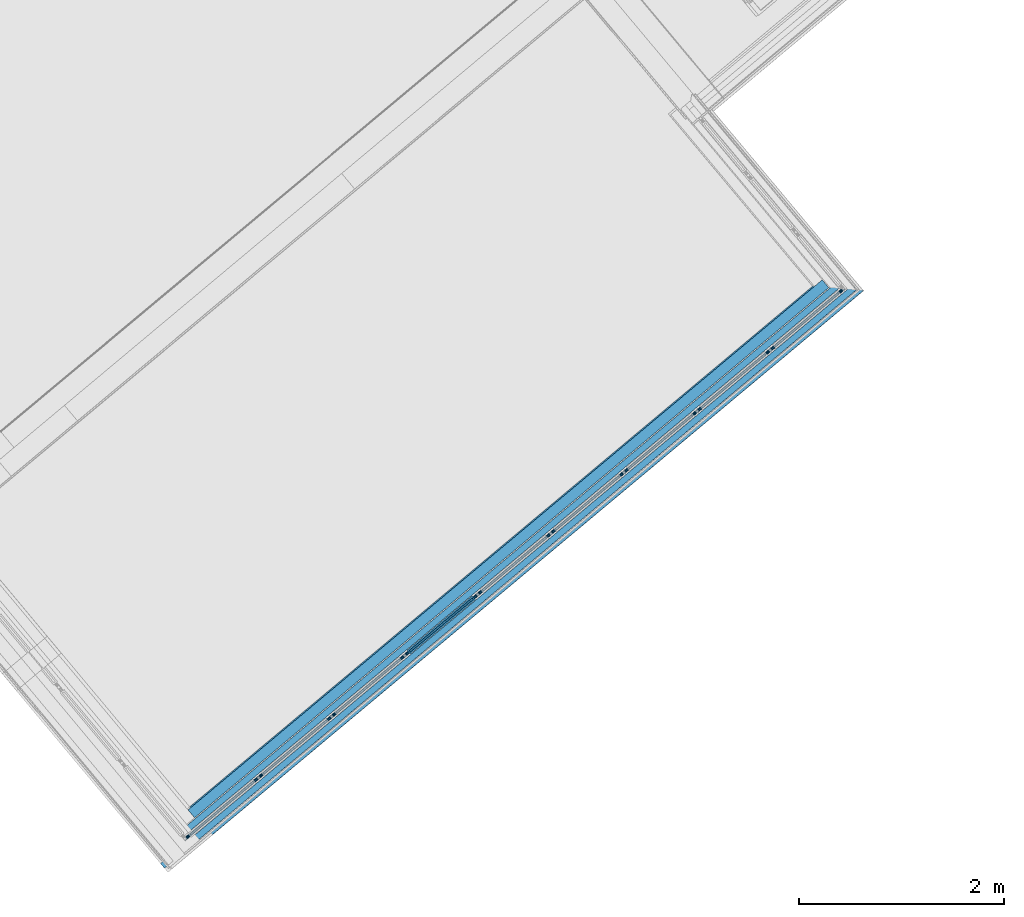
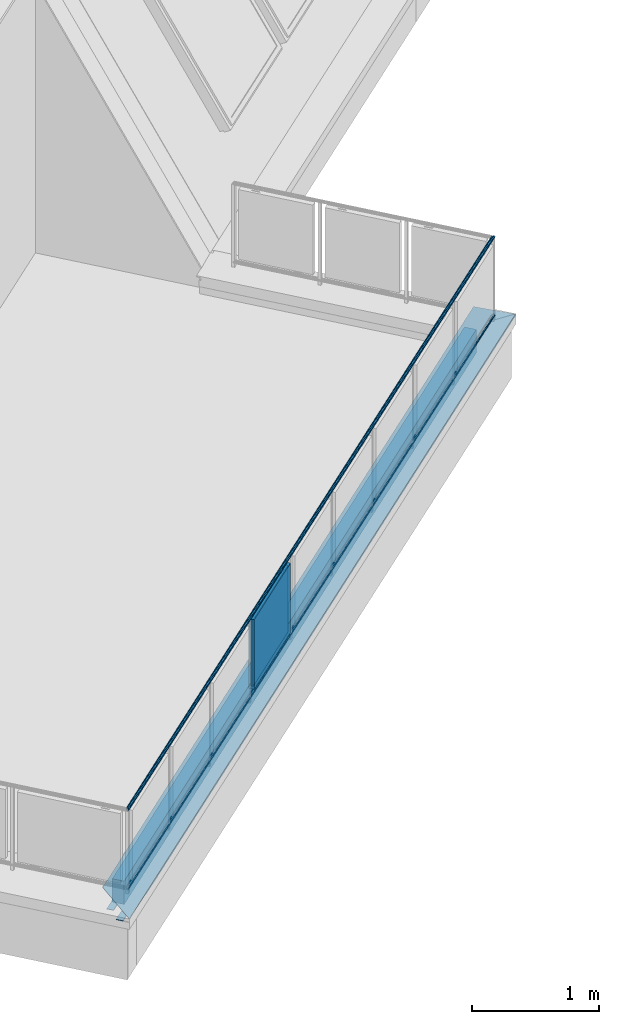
# One storey, part 19 of 61: 8 building element parts, 2 elements without a shape of their own.
"""IFC4 building model written with IfcOpenShell, lengths in metres."""

from ifc_helpers import new_model, entity, si_unit, converted_unit, derived_unit, direction, frame, origin_with_axes, place, context, subcontext, project, spatial, polygons, material, type_object, element, aggregate, save


model = new_model("IFC4")

# Units and contexts
model_context = context("Model", 3, precision=1e-05, world=origin_with_axes(), true_north=direction((0.0, 1.0)))
body_context = subcontext(model_context, "Body", "Model", "MODEL_VIEW")
ifc_project = project(units=[si_unit("LENGTHUNIT", "METRE"), si_unit("AREAUNIT", "SQUARE_METRE"), si_unit("VOLUMEUNIT", "CUBIC_METRE"), converted_unit("PLANEANGLEUNIT", "DEGREE", entity("IfcPlaneAngleMeasure", 0.0174532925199), si_unit("PLANEANGLEUNIT", "RADIAN"), dimensions=[0, 0, 0, 0, 0, 0, 0]), converted_unit("TIMEUNIT", "Year", entity("IfcTimeMeasure", 31556926.0), si_unit("TIMEUNIT", "SECOND"), dimensions=[0, 0, 1, 0, 0, 0, 0]), si_unit("MASSUNIT", "GRAM", prefix="KILO"), si_unit("THERMODYNAMICTEMPERATUREUNIT", "DEGREE_CELSIUS"), si_unit("LUMINOUSINTENSITYUNIT", "LUMEN"), si_unit("ENERGYUNIT", "JOULE", prefix="MEGA"), derived_unit("THERMALCONDUCTANCEUNIT", [(si_unit("POWERUNIT", "WATT"), 1), (si_unit("LENGTHUNIT", "METRE"), -1), (si_unit("THERMODYNAMICTEMPERATUREUNIT", "KELVIN"), -1)]), derived_unit("SPECIFICHEATCAPACITYUNIT", [(si_unit("ENERGYUNIT", "JOULE"), 1), (si_unit("MASSUNIT", "GRAM", prefix="KILO"), -1), (si_unit("THERMODYNAMICTEMPERATUREUNIT", "KELVIN"), -1)]), derived_unit("MASSDENSITYUNIT", [(si_unit("MASSUNIT", "GRAM", prefix="KILO"), 1), (si_unit("VOLUMEUNIT", "CUBIC_METRE"), -1)])], contexts=[model_context])

# Site, building, storey
site_placement = place(None, frame((-0.00153261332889, -0.00661245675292, 0.0), z_axis=(0.0, 0.0, 1.0), x_axis=(1.0, 0.0, 0.0)))
site = spatial("IfcSite", under=ifc_project, at=site_placement, Name="Gelände", CompositionType="ELEMENT")
building_placement = place(site_placement, origin_with_axes())
building = spatial("IfcBuilding", under=site, at=building_placement, Name="Gebäude", CompositionType="ELEMENT")
storey_placement = place(building_placement, frame((0.0, 0.0, 5.7), z_axis=(0.0, 0.0, 1.0), x_axis=(1.0, 0.0, 0.0)))
storey = spatial("IfcBuildingStorey", under=building, at=storey_placement, Name="DG1", CompositionType="ELEMENT", Elevation=5.7)

# Wall, building element parts
wall_type = type_object("IfcWallType", Name="Bauteil - Attika Balkon 356 x 610", PredefinedType="NOTDEFINED")
wall_placement = place(storey_placement, frame((0.456856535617, 6.75344693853, -0.2), z_axis=(0.0, 0.0, 1.0), x_axis=(0.767288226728, 0.641302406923, 0.0)))
wall = element("IfcWall", 1, at=wall_placement, inside=storey, type_object=wall_type, Name="Wand-003", PredefinedType="NOTDEFINED")
ifc_material_1 = material(Name="Holzwerkstoff")
building_element_part_1_placement = place(wall_placement, origin_with_axes())
building_element_part_1 = element("IfcBuildingElementPart", 2, at=building_element_part_1_placement, material=ifc_material_1, Name="Holzwerkstoff", PredefinedType="NOTDEFINED", context=body_context, shape_type="Tessellation", body=[
    polygons([(0.330547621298, -0.189984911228, 0.586106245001), (0.330501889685, -0.13012497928, 0.584015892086), (8.50878371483, -0.130124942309, 0.584015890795), (8.56867877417, -0.189984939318, 0.586106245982), (0.330612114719, 0.11183400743, 0.584015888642), (0.330685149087, 0.111907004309, 0.586106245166), (0.330456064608, -0.0701429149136, 0.581921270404), (8.44876652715, -0.0701429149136, 0.581921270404), (8.50864209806, 0.111834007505, 0.584015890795), (8.56850199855, 0.111907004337, 0.586106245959), (0.330585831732, -0.23999998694, 0.587852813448), (8.61872305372, -0.239999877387, 0.587852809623), (0.330538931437, 0.111760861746, 0.581921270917), (0.330749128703, 0.111970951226, 0.587937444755), (0.330588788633, -0.239997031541, 0.587937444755), (0.112278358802, 0.112247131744, 0.595846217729), (8.61823774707, 0.112247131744, 0.595846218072), (8.61851704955, 0.111967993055, 0.587852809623), (8.44866006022, 0.111760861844, 0.581921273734), (8.3885498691, 0.111687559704, 0.579822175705), (8.26697794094, 0.111539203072, 0.575576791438), (0.3303172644, 0.111539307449, 0.575576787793), (0.330331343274, 0.11155337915, 0.57597974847), (0.330465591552, 0.111687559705, 0.57982217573), (0.330410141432, -0.0100326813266, 0.579822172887), (8.38862111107, -0.0100326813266, 0.579822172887), (-0.239385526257, -0.239276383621, 0.608570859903), (0.112118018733, -0.239720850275, 0.595846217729), (8.61844375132, -0.239720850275, 0.595846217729), (8.61799913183, -0.23927649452, 0.608570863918), (0.330326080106, 0.100000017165, 0.57597974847)], [[[1, 2, 3, 4]], [[5, 2, 1, 6]], [[2, 7, 8, 3]], [[9, 10, 4, 3]], [[11, 1, 4, 12]], [[7, 2, 5, 13]], [[14, 6, 1, 11, 15]], [[14, 16, 17, 18, 10, 9, 19, 20, 21, 22, 23, 24, 13, 5, 6]], [[7, 25, 26, 8]], [[8, 19, 9, 3]], [[10, 18, 12, 4]], [[27, 28, 15, 11, 12, 29, 30]], [[25, 7, 13, 24]], [[28, 16, 14, 15]], [[16, 27, 30, 17]], [[18, 17, 29, 12]], [[8, 26, 20, 19]], [[26, 21, 20]], [[31, 22, 21, 26, 25]], [[22, 31, 23]], [[25, 24, 23, 31]], [[16, 28, 27]], [[30, 29, 17]]], closed=True),
])
ifc_material_2 = material(Name="EPS 1")
building_element_part_2_placement = place(wall_placement, origin_with_axes())
building_element_part_2 = element("IfcBuildingElementPart", 3, at=building_element_part_2_placement, material=ifc_material_2, Name="EPS 1", PredefinedType="NOTDEFINED", context=body_context, shape_type="Tessellation", body=[
    polygons([(8.3785825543, -2.39906761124e-10, 0.519273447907), (8.3785825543, -2.3990853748e-10, 0.560000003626), (0.300000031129, -2.39911202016e-10, 0.560000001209), (0.300000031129, -2.39907649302e-10, 0.519273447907), (0.300000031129, -2.39907649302e-10, 0.519224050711), (0.300000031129, -2.39907649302e-10, 0.511410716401), (0.300000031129, -2.39907649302e-10, 0.51136132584), (0.300000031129, -2.39907649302e-10, 0.509099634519), (0.300000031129, -2.39907649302e-10, 0.509050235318), (0.300000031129, -2.39907649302e-10, 0.506731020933), (0.300000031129, -2.39907649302e-10, 0.499999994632), (0.300000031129, -2.39907649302e-10, 0.498915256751), (0.300000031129, -2.39907649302e-10, 0.498822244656), (0.300000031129, -2.39907649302e-10, 0.496604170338), (0.300000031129, -2.39907649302e-10, 0.491006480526), (0.300000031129, -2.39907649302e-10, 0.488695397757), (0.300000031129, -2.39909425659e-10, 0.335), (8.3785825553, -2.3990853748e-10, 0.334999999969), (8.3785825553, -2.3990853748e-10, 0.496604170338), (8.3785825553, -2.3990853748e-10, 0.498915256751), (8.3785825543, -2.40488517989e-10, 0.499999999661), (8.3785825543, -2.39906761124e-10, 0.506731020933), (8.3785825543, -2.39906761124e-10, 0.509099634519), (8.3785825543, -2.39906761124e-10, 0.511410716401), (8.37852402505, 0.0999999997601, 0.560000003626), (8.37852402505, 0.0999999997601, 0.519273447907), (0.300045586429, 0.0999999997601, 0.560000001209), (0.300045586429, 0.0999999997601, 0.519273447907), (0.300045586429, 0.0999999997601, 0.519224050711), (0.300045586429, 0.0999999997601, 0.511410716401), (0.300045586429, 0.0999999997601, 0.51136132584), (0.300045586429, 0.0999999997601, 0.509099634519), (0.300045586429, 0.0999999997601, 0.509050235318), (0.300045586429, 0.0999999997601, 0.506731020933), (0.300045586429, 0.0999999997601, 0.499999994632), (0.300045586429, 0.0999999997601, 0.498915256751), (0.300045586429, 0.0999999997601, 0.498822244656), (0.300045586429, 0.0999999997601, 0.496604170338), (0.300045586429, 0.0999999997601, 0.491006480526), (0.300045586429, 0.0999999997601, 0.488695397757), (0.300045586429, 0.0999999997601, 0.335), (8.37852402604, 0.0999999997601, 0.334999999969), (8.37852402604, 0.0999999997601, 0.496604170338), (8.37852402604, 0.0999999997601, 0.498915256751), (8.37852402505, 0.0999999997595, 0.499999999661), (8.37852402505, 0.0999999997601, 0.506731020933), (8.37852402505, 0.0999999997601, 0.509099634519), (8.37852402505, 0.0999999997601, 0.511410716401)], [[[1, 2, 3, 4, 5, 6, 7, 8, 9, 10, 11, 12, 13, 14, 15, 16, 17, 18, 19, 20, 21, 22, 23, 24]], [[25, 2, 1, 26]], [[2, 25, 27, 3]], [[4, 3, 27, 28]], [[4, 28, 29, 5]], [[5, 29, 30, 6]], [[6, 30, 31, 7]], [[7, 31, 32, 8]], [[8, 32, 33, 9]], [[9, 33, 34, 10]], [[10, 34, 35, 11]], [[11, 35, 36, 12]], [[12, 36, 37, 13]], [[13, 37, 38, 14]], [[14, 38, 39, 15]], [[15, 39, 40, 16]], [[16, 40, 41, 17]], [[42, 18, 17, 41]], [[43, 19, 18, 42]], [[44, 20, 19, 43]], [[45, 21, 20, 44]], [[46, 22, 21, 45]], [[47, 23, 22, 46]], [[48, 24, 23, 47]], [[26, 1, 24, 48]], [[25, 26, 48, 47, 46, 45, 44, 43, 42, 41, 40, 39, 38, 37, 36, 35, 34, 33, 32, 31, 30, 29, 28, 27]]], closed=True),
])
ifc_material_3 = material(Name="Vollholz")
building_element_part_3_placement = place(wall_placement, origin_with_axes())
building_element_part_3 = element("IfcBuildingElementPart", 4, at=building_element_part_3_placement, material=ifc_material_3, Name="Vollholz", PredefinedType="NOTDEFINED", context=body_context, shape_type="Tessellation", body=[
    polygons([(8.44876652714, -0.0701429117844, 0.57982217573), (8.44876652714, -0.0701429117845, 0.581921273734), (-0.130156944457, -0.0701429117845, 0.581921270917), (-0.130156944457, -0.0701429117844, 0.57982217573), (-0.130156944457, -0.0701429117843, 0.575979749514), (0.0999680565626, -0.0701429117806, 0.575979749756), (0.111507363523, -0.0701429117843, 0.575576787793), (0.160078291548, -0.0701429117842, 0.573880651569), (0.1600311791, -0.0701429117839, 0.567947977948), (0.159968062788, -0.0701429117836, 0.560000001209), (8.44876652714, -0.0701429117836, 0.560000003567), (8.44876652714, -0.0701429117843, 0.575576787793), (8.44873134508, -0.0100326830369, 0.57982217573), (-0.130129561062, -0.0100326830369, 0.57982217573), (-0.130129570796, -0.0100540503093, 0.575979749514), (0.0999954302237, -0.0100540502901, 0.575979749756), (0.111534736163, -0.0100562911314, 0.575576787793), (0.160105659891, -0.0100657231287, 0.573880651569), (0.160058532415, -0.0100987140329, 0.567947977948), (0.159995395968, -0.0101429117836, 0.560000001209), (8.44873140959, -0.0101429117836, 0.560000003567), (8.44873135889, -0.0100562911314, 0.575576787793)], [[[1, 2, 3, 4, 5, 6, 7, 8, 9, 10, 11, 12]], [[13, 2, 1]], [[2, 13, 14, 3]], [[4, 3, 14]], [[4, 14, 15, 5]], [[5, 15, 16, 6]], [[17, 7, 6, 16]], [[7, 17, 18, 8]], [[8, 18, 19, 9]], [[9, 19, 20, 10]], [[21, 11, 10, 20]], [[22, 12, 11, 21]], [[13, 1, 12, 22]], [[13, 22, 21, 20, 19, 18, 17, 16, 15, 14]]], closed=True),
])
building_element_part_4_placement = place(wall_placement, origin_with_axes())
building_element_part_4 = element("IfcBuildingElementPart", 5, at=building_element_part_4_placement, material=ifc_material_3, Name="Vollholz", PredefinedType="NOTDEFINED", context=body_context, shape_type="Tessellation", body=[
    polygons([(8.56865487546, -0.130124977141, 0.584015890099), (8.5686899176, -0.189996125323, 0.584015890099), (8.56870116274, -0.190007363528, 0.581921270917), (8.56866611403, -0.130124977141, 0.581921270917), (8.56867877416, -0.189984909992, 0.586106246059), (-0.190071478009, -0.18998490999, 0.586106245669), (-0.130211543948, -0.189996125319, 0.584015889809), (-0.130211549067, -0.190007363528, 0.581921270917), (-0.190093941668, -0.190007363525, 0.581921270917), (-0.240237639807, -0.190007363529, 0.581921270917), (-0.241586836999, -0.190007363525, 0.581921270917), (-0.241586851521, -0.190039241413, 0.575979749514), (-0.240237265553, -0.190039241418, 0.575979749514), (-0.190125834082, -0.190039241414, 0.575979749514), (-0.130211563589, -0.190039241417, 0.575979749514), (-0.130211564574, -0.190041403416, 0.575576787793), (-0.13021156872, -0.190050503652, 0.573880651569), (-0.13021158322, -0.19008233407, 0.567947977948), (-0.130211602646, -0.190124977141, 0.560000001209), (8.568818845, -0.190124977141, 0.560000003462), (8.56873522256, -0.190041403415, 0.575576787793), (8.56871243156, -0.190018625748, 0.57982217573), (8.56867737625, -0.130124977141, 0.57982217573), (8.56870015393, -0.130124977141, 0.575576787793), (8.56878372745, -0.130124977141, 0.560000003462), (-0.130184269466, -0.130124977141, 0.560000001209), (-0.130184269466, -0.130124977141, 0.567947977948), (-0.130184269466, -0.130124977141, 0.573880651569), (-0.130184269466, -0.130124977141, 0.575576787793), (-0.130184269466, -0.130124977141, 0.575979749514), (-0.190098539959, -0.130124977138, 0.575979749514), (-0.24020997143, -0.130124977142, 0.575979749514), (-0.241559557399, -0.130124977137, 0.575979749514), (-0.241559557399, -0.130124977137, 0.581921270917), (-0.240210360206, -0.130124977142, 0.581921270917), (-0.190066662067, -0.130124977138, 0.581921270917), (-0.130184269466, -0.130124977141, 0.581921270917), (-0.130184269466, -0.130124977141, 0.584015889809)], [[[1, 2, 3, 4]], [[5, 2, 1]], [[2, 5, 6, 7, 8, 9, 10, 11, 12, 13, 14, 15, 16, 17, 18, 19, 20, 21, 22, 3]], [[4, 3, 22, 23]], [[1, 4, 23, 24, 25, 26, 27, 28, 29, 30, 31, 32, 33, 34, 35, 36, 37, 38]], [[5, 1, 38, 6]], [[38, 7, 6]], [[7, 38, 37, 8]], [[9, 8, 37, 36]], [[9, 36, 35, 10]], [[10, 35, 34, 11]], [[11, 34, 33, 12]], [[32, 13, 12, 33]], [[31, 14, 13, 32]], [[15, 14, 31, 30]], [[16, 15, 30, 29]], [[16, 29, 28, 17]], [[17, 28, 27, 18]], [[18, 27, 26, 19]], [[25, 20, 19, 26]], [[24, 21, 20, 25]], [[23, 22, 21, 24]]], closed=True),
])
aggregate(wall, [building_element_part_1, building_element_part_2, building_element_part_3, building_element_part_4])

# Space
space_placement = place(storey_placement, frame((-1.65459986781, 9.80045444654, 0.22), z_axis=(0.0, 0.0, 1.0), x_axis=(0.640908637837, -0.767617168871, 0.0)))
space = spatial("IfcSpace", under=storey, at=space_placement, CompositionType="ELEMENT", PredefinedType="NOTDEFINED")

# Railing, building element parts
railing_type = type_object("IfcRailingType", Name="Geländerart", PredefinedType="NOTDEFINED")
railing_placement = place(space_placement, frame((-0.0155551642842, 0.517171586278, 0.16), z_axis=(0.0, 0.0, 1.0), x_axis=(0.640908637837, 0.767617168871, 0.0)))
railing = element("IfcRailing", 6, at=railing_placement, inside=space, type_object=railing_type, Name="Geländer - 001", PredefinedType="NOTDEFINED")
ifc_material_4 = material(Name="Aluminium")
building_element_part_5_placement = place(railing_placement, origin_with_axes())
building_element_part_5 = element("IfcBuildingElementPart", 7, at=building_element_part_5_placement, material=ifc_material_4, Name="Aluminium", PredefinedType="NOTDEFINED", context=body_context, shape_type="Tessellation", body=[
    polygons([(1.86715214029, -3.38188828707, 0.825), (1.86712331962, -3.38220933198, 0.827604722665), (8.27406230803, 1.97118410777, 0.827604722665), (8.27374117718, 1.97121274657, 0.825), (1.86712331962, -3.38220933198, 0.822395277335), (1.86703773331, -3.38316271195, 0.81986969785), (1.86689798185, -3.384719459, 0.8175), (1.86670831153, -3.38683227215, 0.815358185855), (1.86647448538, -3.38943695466, 0.813509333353), (1.86620360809, -3.39245436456, 0.812009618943), (1.86590391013, -3.39579281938, 0.810904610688), (1.86558449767, -3.39935088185, 0.810227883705), (1.86525507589, -3.40302044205, 0.81), (1.86492565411, -3.40669000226, 0.810227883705), (1.86460624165, -3.41024806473, 0.810904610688), (1.86430654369, -3.41358651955, 0.812009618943), (1.8640356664, -3.41660392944, 0.813509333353), (1.86380184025, -3.41920861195, 0.815358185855), (1.86361216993, -3.42132142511, 0.8175), (1.86347241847, -3.42287817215, 0.81986969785), (1.86338683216, -3.42383155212, 0.822395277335), (1.86335801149, -3.42415259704, 0.825), (1.86338683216, -3.42383155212, 0.827604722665), (1.86347241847, -3.42287817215, 0.83013030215), (1.86361216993, -3.42132142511, 0.8325), (1.86380184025, -3.41920861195, 0.834641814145), (1.8640356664, -3.41660392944, 0.836490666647), (1.86430654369, -3.41358651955, 0.837990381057), (1.86460624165, -3.41024806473, 0.839095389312), (1.86492565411, -3.40669000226, 0.839772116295), (1.86525507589, -3.40302044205, 0.84), (1.86558449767, -3.39935088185, 0.839772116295), (1.86590391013, -3.39579281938, 0.839095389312), (1.86620360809, -3.39245436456, 0.837990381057), (1.86647448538, -3.38943695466, 0.836490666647), (1.86670831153, -3.38683227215, 0.834641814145), (1.86689798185, -3.384719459, 0.8325), (1.86703773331, -3.38316271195, 0.83013030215), (8.27501594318, 1.97109906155, 0.83013030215), (8.27657310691, 1.970960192, 0.8325), (8.27868648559, 1.9707717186, 0.834641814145), (8.28129186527, 1.97053936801, 0.836490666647), (8.28431008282, 1.9702702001, 0.837990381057), (8.28764943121, 1.96997239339, 0.839095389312), (8.29120844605, 1.96965499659, 0.839772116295), (8.29487898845, 1.96932765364, 0.84), (8.29854953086, 1.96900031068, 0.839772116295), (8.30210854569, 1.96868291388, 0.839095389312), (8.30544789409, 1.96838510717, 0.837990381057), (8.30846611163, 1.96811593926, 0.836490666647), (8.31107149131, 1.96788358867, 0.834641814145), (8.31318486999, 1.96769511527, 0.8325), (8.31474203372, 1.96755624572, 0.83013030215), (8.31569566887, 1.9674711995, 0.827604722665), (8.31601679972, 1.96744256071, 0.825), (8.31569566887, 1.9674711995, 0.822395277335), (8.31474203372, 1.96755624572, 0.81986969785), (8.31318486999, 1.96769511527, 0.8175), (8.31107149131, 1.96788358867, 0.815358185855), (8.30846611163, 1.96811593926, 0.813509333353), (8.30544789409, 1.96838510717, 0.812009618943), (8.30210854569, 1.96868291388, 0.810904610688), (8.29854953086, 1.96900031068, 0.810227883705), (8.29487898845, 1.96932765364, 0.81), (8.29120844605, 1.96965499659, 0.810227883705), (8.28764943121, 1.96997239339, 0.810904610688), (8.28431008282, 1.9702702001, 0.812009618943), (8.28129186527, 1.97053936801, 0.813509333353), (8.27868648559, 1.9707717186, 0.815358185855), (8.27657310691, 1.970960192, 0.8175), (8.27501594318, 1.97109906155, 0.81986969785), (8.27406230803, 1.97118410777, 0.822395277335)], [[[1, 2, 3, 4]], [[1, 5, 6, 7, 8, 9, 10, 11, 12, 13, 14, 15, 16, 17, 18, 19, 20, 21, 22, 23, 24, 25, 26, 27, 28, 29, 30, 31, 32, 33, 34, 35, 36, 37, 38, 2]], [[2, 38, 39, 3]], [[4, 3, 39, 40, 41, 42, 43, 44, 45, 46, 47, 48, 49, 50, 51, 52, 53, 54, 55, 56, 57, 58, 59, 60, 61, 62, 63, 64, 65, 66, 67, 68, 69, 70, 71, 72]], [[5, 1, 4, 72]], [[6, 5, 72, 71]], [[7, 6, 71, 70]], [[8, 7, 70, 69]], [[9, 8, 69, 68]], [[10, 9, 68, 67]], [[11, 10, 67, 66]], [[12, 11, 66, 65]], [[13, 12, 65, 64]], [[14, 13, 64, 63]], [[15, 14, 63, 62]], [[16, 15, 62, 61]], [[17, 16, 61, 60]], [[18, 17, 60, 59]], [[19, 18, 59, 58]], [[20, 19, 58, 57]], [[21, 20, 57, 56]], [[22, 21, 56, 55]], [[23, 22, 55, 54]], [[24, 23, 54, 53]], [[25, 24, 53, 52]], [[26, 25, 52, 51]], [[27, 26, 51, 50]], [[28, 27, 50, 49]], [[29, 28, 49, 48]], [[30, 29, 48, 47]], [[31, 30, 47, 46]], [[32, 31, 46, 45]], [[33, 32, 45, 44]], [[34, 33, 44, 43]], [[35, 34, 43, 42]], [[36, 35, 42, 41]], [[37, 36, 41, 40]], [[38, 37, 40, 39]]], closed=True),
])
building_element_part_6_placement = place(railing_placement, origin_with_axes())
building_element_part_6 = element("IfcBuildingElementPart", 8, at=building_element_part_6_placement, material=ifc_material_4, Name="Aluminium", PredefinedType="NOTDEFINED", context=body_context, shape_type="Tessellation", body=[
    polygons([(1.86715214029, -3.38188828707, 0.07), (1.86712331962, -3.38220933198, 0.072604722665), (8.27406230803, 1.97118410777, 0.072604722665), (8.27374117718, 1.97121274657, 0.07), (1.86712331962, -3.38220933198, 0.067395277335), (1.86703773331, -3.38316271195, 0.0648696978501), (1.86689798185, -3.384719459, 0.0625), (1.86670831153, -3.38683227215, 0.0603581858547), (1.86647448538, -3.38943695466, 0.0585093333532), (1.86620360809, -3.39245436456, 0.0570096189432), (1.86590391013, -3.39579281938, 0.0559046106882), (1.86558449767, -3.39935088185, 0.0552278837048), (1.86525507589, -3.40302044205, 0.055), (1.86492565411, -3.40669000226, 0.0552278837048), (1.86460624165, -3.41024806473, 0.0559046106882), (1.86430654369, -3.41358651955, 0.0570096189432), (1.8640356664, -3.41660392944, 0.0585093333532), (1.86380184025, -3.41920861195, 0.0603581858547), (1.86361216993, -3.42132142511, 0.0625), (1.86347241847, -3.42287817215, 0.0648696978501), (1.86338683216, -3.42383155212, 0.067395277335), (1.86335801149, -3.42415259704, 0.07), (1.86338683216, -3.42383155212, 0.072604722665), (1.86347241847, -3.42287817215, 0.0751303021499), (1.86361216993, -3.42132142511, 0.0775), (1.86380184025, -3.41920861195, 0.0796418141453), (1.8640356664, -3.41660392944, 0.0814906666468), (1.86430654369, -3.41358651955, 0.0829903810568), (1.86460624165, -3.41024806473, 0.0840953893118), (1.86492565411, -3.40669000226, 0.0847721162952), (1.86525507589, -3.40302044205, 0.085), (1.86558449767, -3.39935088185, 0.0847721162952), (1.86590391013, -3.39579281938, 0.0840953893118), (1.86620360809, -3.39245436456, 0.0829903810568), (1.86647448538, -3.38943695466, 0.0814906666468), (1.86670831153, -3.38683227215, 0.0796418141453), (1.86689798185, -3.384719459, 0.0775), (1.86703773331, -3.38316271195, 0.0751303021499), (8.27501594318, 1.97109906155, 0.0751303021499), (8.27657310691, 1.970960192, 0.0775), (8.27868648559, 1.9707717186, 0.0796418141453), (8.28129186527, 1.97053936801, 0.0814906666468), (8.28431008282, 1.9702702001, 0.0829903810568), (8.28764943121, 1.96997239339, 0.0840953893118), (8.29120844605, 1.96965499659, 0.0847721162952), (8.29487898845, 1.96932765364, 0.085), (8.29854953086, 1.96900031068, 0.0847721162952), (8.30210854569, 1.96868291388, 0.0840953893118), (8.30544789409, 1.96838510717, 0.0829903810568), (8.30846611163, 1.96811593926, 0.0814906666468), (8.31107149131, 1.96788358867, 0.0796418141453), (8.31318486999, 1.96769511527, 0.0775), (8.31474203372, 1.96755624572, 0.0751303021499), (8.31569566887, 1.9674711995, 0.072604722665), (8.31601679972, 1.96744256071, 0.07), (8.31569566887, 1.9674711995, 0.067395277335), (8.31474203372, 1.96755624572, 0.0648696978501), (8.31318486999, 1.96769511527, 0.0625), (8.31107149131, 1.96788358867, 0.0603581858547), (8.30846611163, 1.96811593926, 0.0585093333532), (8.30544789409, 1.96838510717, 0.0570096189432), (8.30210854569, 1.96868291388, 0.0559046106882), (8.29854953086, 1.96900031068, 0.0552278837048), (8.29487898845, 1.96932765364, 0.055), (8.29120844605, 1.96965499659, 0.0552278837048), (8.28764943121, 1.96997239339, 0.0559046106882), (8.28431008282, 1.9702702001, 0.0570096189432), (8.28129186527, 1.97053936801, 0.0585093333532), (8.27868648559, 1.9707717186, 0.0603581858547), (8.27657310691, 1.970960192, 0.0625), (8.27501594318, 1.97109906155, 0.0648696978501), (8.27406230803, 1.97118410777, 0.067395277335)], [[[1, 2, 3, 4]], [[1, 5, 6, 7, 8, 9, 10, 11, 12, 13, 14, 15, 16, 17, 18, 19, 20, 21, 22, 23, 24, 25, 26, 27, 28, 29, 30, 31, 32, 33, 34, 35, 36, 37, 38, 2]], [[2, 38, 39, 3]], [[4, 3, 39, 40, 41, 42, 43, 44, 45, 46, 47, 48, 49, 50, 51, 52, 53, 54, 55, 56, 57, 58, 59, 60, 61, 62, 63, 64, 65, 66, 67, 68, 69, 70, 71, 72]], [[5, 1, 4, 72]], [[6, 5, 72, 71]], [[7, 6, 71, 70]], [[8, 7, 70, 69]], [[9, 8, 69, 68]], [[10, 9, 68, 67]], [[11, 10, 67, 66]], [[12, 11, 66, 65]], [[13, 12, 65, 64]], [[14, 13, 64, 63]], [[15, 14, 63, 62]], [[16, 15, 62, 61]], [[17, 16, 61, 60]], [[18, 17, 60, 59]], [[19, 18, 59, 58]], [[20, 19, 58, 57]], [[21, 20, 57, 56]], [[22, 21, 56, 55]], [[23, 22, 55, 54]], [[24, 23, 54, 53]], [[25, 24, 53, 52]], [[26, 25, 52, 51]], [[27, 26, 51, 50]], [[28, 27, 50, 49]], [[29, 28, 49, 48]], [[30, 29, 48, 47]], [[31, 30, 47, 46]], [[32, 31, 46, 45]], [[33, 32, 45, 44]], [[34, 33, 44, 43]], [[35, 34, 43, 42]], [[36, 35, 42, 41]], [[37, 36, 41, 40]], [[38, 37, 40, 39]]], closed=True),
])
ifc_material_5 = material(Name="Profilit")
building_element_part_7_placement = place(railing_placement, origin_with_axes())
building_element_part_7 = element("IfcBuildingElementPart", 9, at=building_element_part_7_placement, material=ifc_material_5, Name="Profilit", PredefinedType="NOTDEFINED", context=body_context, shape_type="Tessellation", body=[
    polygons([(4.66657409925, -1.04931393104, 0.135), (4.05193078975, -1.56288639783, 0.135), (4.05193078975, -1.56288639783, 0.775), (4.66657409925, -1.04931393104, 0.775), (4.06475465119, -1.57823398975, 0.135), (4.67939796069, -1.06466152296, 0.135), (4.06475465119, -1.57823398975, 0.775), (4.67939796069, -1.06466152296, 0.775)], [[[1, 2, 3, 4]], [[5, 2, 1, 6]], [[7, 3, 2, 5]], [[4, 3, 7, 8]], [[1, 4, 8, 6]], [[7, 5, 6, 8]]], closed=True),
])
building_element_part_8_placement = place(railing_placement, origin_with_axes())
building_element_part_8 = element("IfcBuildingElementPart", 10, at=building_element_part_8_placement, material=ifc_material_4, Name="Aluminium", PredefinedType="NOTDEFINED", context=body_context, shape_type="Tessellation", body=[
    polygons([(4.12196700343, -1.51414033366, 0.12), (4.17568357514, -1.4692568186, 0.12), (4.17568357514, -1.4692568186, 0.095), (4.12196700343, -1.51414033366, 0.095), (4.12517296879, -1.51797723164, 0.12), (4.1788895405, -1.47309371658, 0.12), (4.1788895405, -1.47309371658, 0.095), (4.12517296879, -1.51797723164, 0.095)], [[[1, 2, 3, 4]], [[5, 6, 2, 1]], [[2, 6, 7, 3]], [[4, 3, 7, 8]], [[1, 4, 8, 5]], [[8, 7, 6, 5]]], closed=True),
    polygons([(4.60615578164, -1.10957068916, 0.79), (4.55243920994, -1.15445420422, 0.79), (4.55243920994, -1.15445420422, 0.795), (4.60615578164, -1.10957068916, 0.795), (4.60936174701, -1.11340758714, 0.79), (4.5556451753, -1.1582911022, 0.79), (4.5556451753, -1.1582911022, 0.795), (4.60936174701, -1.11340758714, 0.795)], [[[1, 2, 3, 4]], [[5, 6, 2, 1]], [[2, 6, 7, 3]], [[4, 3, 7, 8]], [[1, 4, 8, 5]], [[8, 7, 6, 5]]], closed=True),
    polygons([(4.06286185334, -1.59936257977, 0.12), (4.03080219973, -1.56099359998, 0.12), (4.6684668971, -1.02818534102, 0.12), (4.70052655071, -1.06655432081, 0.12), (4.07820944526, -1.58653871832, 0.14), (4.06859154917, -1.57502802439, 0.14), (4.06475465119, -1.57823398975, 0.135), (4.05193078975, -1.56288639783, 0.135), (4.05576768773, -1.55968043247, 0.14), (4.04614979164, -1.54816973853, 0.14), (4.65311930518, -1.04100920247, 0.14), (4.65311930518, -1.04100920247, 0.77), (4.04614979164, -1.54816973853, 0.77), (4.04614979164, -1.54816973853, 0.14), (4.03080219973, -1.56099359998, 0.12), (4.03080219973, -1.56099359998, 0.79), (4.6684668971, -1.02818534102, 0.79), (4.70052655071, -1.06655432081, 0.79), (4.06286185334, -1.59936257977, 0.79), (4.06286185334, -1.59936257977, 0.12), (4.07820944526, -1.58653871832, 0.14), (4.07820944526, -1.58653871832, 0.77), (4.6851789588, -1.07937818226, 0.77), (4.6851789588, -1.07937818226, 0.14), (4.67556106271, -1.06786748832, 0.14), (4.67556106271, -1.06786748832, 0.77), (4.06859154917, -1.57502802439, 0.77), (4.06859154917, -1.57502802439, 0.14), (4.06475465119, -1.57823398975, 0.135), (4.06475465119, -1.57823398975, 0.775), (4.67939796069, -1.06466152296, 0.775), (4.67939796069, -1.06466152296, 0.135), (4.66657409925, -1.04931393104, 0.135), (4.66657409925, -1.04931393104, 0.775), (4.05193078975, -1.56288639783, 0.775), (4.05193078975, -1.56288639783, 0.135), (4.05576768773, -1.55968043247, 0.14), (4.05576768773, -1.55968043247, 0.77), (4.66273720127, -1.0525198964, 0.77), (4.66273720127, -1.0525198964, 0.14)], [[[1, 2, 3, 4]], [[1, 5, 6, 7, 8, 9, 10, 2]], [[2, 10, 11, 12, 13, 14, 15, 16, 17, 3]], [[4, 3, 17, 18]], [[5, 1, 4, 18, 19, 20, 21, 22, 23, 24]], [[6, 5, 24, 25]], [[7, 6, 25, 26, 27, 28, 29, 30, 31, 32]], [[8, 7, 32, 33]], [[9, 8, 33, 34, 35, 36, 37, 38, 39, 40]], [[10, 9, 40, 11]], [[11, 40, 39, 12]], [[12, 39, 38, 13]], [[13, 38, 37, 14]], [[20, 15, 14, 37, 36, 29, 28, 21]], [[19, 16, 15, 20]], [[18, 17, 16, 19]], [[27, 22, 21, 28]], [[26, 23, 22, 27]], [[25, 24, 23, 26]], [[35, 30, 29, 36]], [[34, 31, 30, 35]], [[33, 32, 31, 34]]], closed=True),
])
aggregate(railing, [building_element_part_5, building_element_part_6, building_element_part_7, building_element_part_8])

save(model, "model.ifc")
